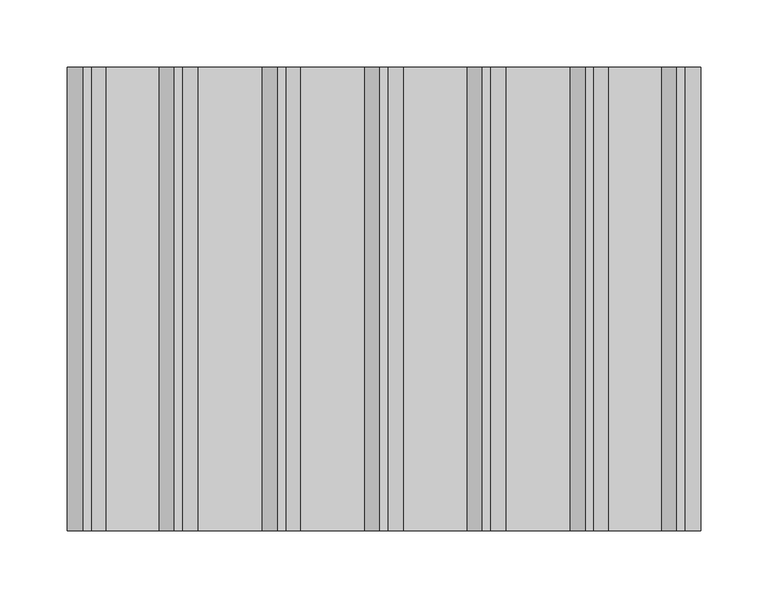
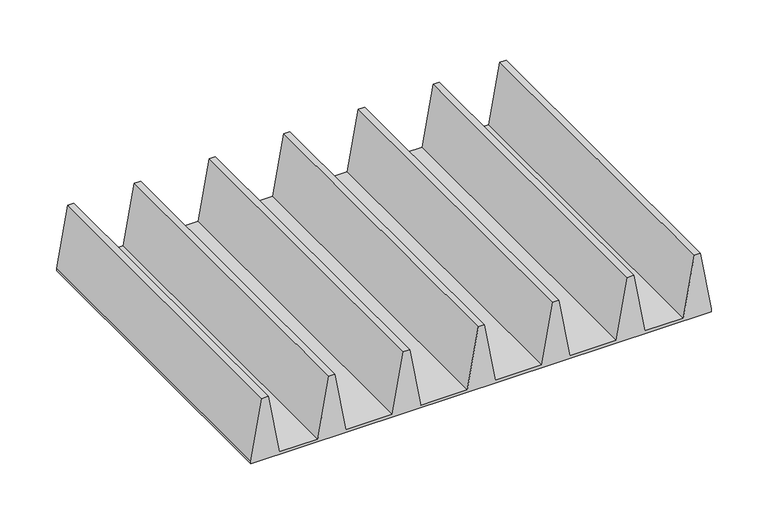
"""IFC4 building model written with IfcOpenShell, lengths in millimetres: furniture geometry."""

from ifc_helpers import new_model, si_unit, frame, origin, place, context, project, spatial, polyline, outline, extrude, source, transform, mapped, element, save


def furniture_6fb4d38e(model_context):
    return source(origin(), model_context, "Body", "SweptSolid", [
        extrude(outline(polyline([(1104.9, -234.8826517), (1104.9, 235.0173483), (1107.9261719, 235.0173483), (1171.575, 223.7943426), (1171.575, 217.4443426), (1107.9261719, 206.221337), (1107.9261719, 166.865354), (1171.575, 155.6423483), (1171.575, 149.2923483), (1107.9261719, 138.0693426), (1107.9261719, 90.665354), (1171.575, 79.4423483), (1171.575, 73.0923483), (1107.9261719, 61.8693426), (1107.9261719, 14.465354), (1171.575, 3.2423483), (1171.575, -3.1076517), (1107.9261719, -14.3306574), (1107.9261719, -61.734646), (1171.575, -72.9576517), (1171.575, -79.3076517), (1107.9261719, -90.5306574), (1107.9261719, -137.934646), (1171.575, -149.1576517), (1171.575, -155.5076517), (1107.9261719, -166.7306574), (1107.9261719, -206.0866403), (1171.575, -217.309646), (1171.575, -223.659646), (1107.9261719, -234.8826517), (1104.9, -234.8826517)])), frame((0.0, -171.831, 0.0), z_axis=(0.0, 1.0, 0.0), x_axis=(0.0, 0.0, 1.0)), (0.0, 0.0, 1.0), 343.662),
    ])


if __name__ == "__main__":
    model = new_model("IFC4")
    model_context = context("Model", 3, world=origin())
    ifc_project = project(units=[si_unit("LENGTHUNIT", "METRE", prefix="MILLI")], contexts=[model_context])
    site = spatial("IfcSite", under=ifc_project)
    building = spatial("IfcBuilding", under=site)
    placement = place(None, origin())
    furniture_shape = furniture_6fb4d38e(model_context)
    element("IfcFurniture", 1, ObjectType="HermanMiller_CoStruc_CO242_Subdivider Vane : 2 5/8\"Hx13 3/4\"D x 18 1/2\"W", at=placement, inside=building, context=model_context, shape_type="MappedRepresentation", body=[
        mapped(furniture_shape, transform((0.0, 0.0, 0.0), x_axis=(1.0, 0.0, 0.0), y_axis=(0.0, 1.0, 0.0), z_axis=(0.0, 0.0, 1.0))),
    ])
    save(model, "model.ifc")
